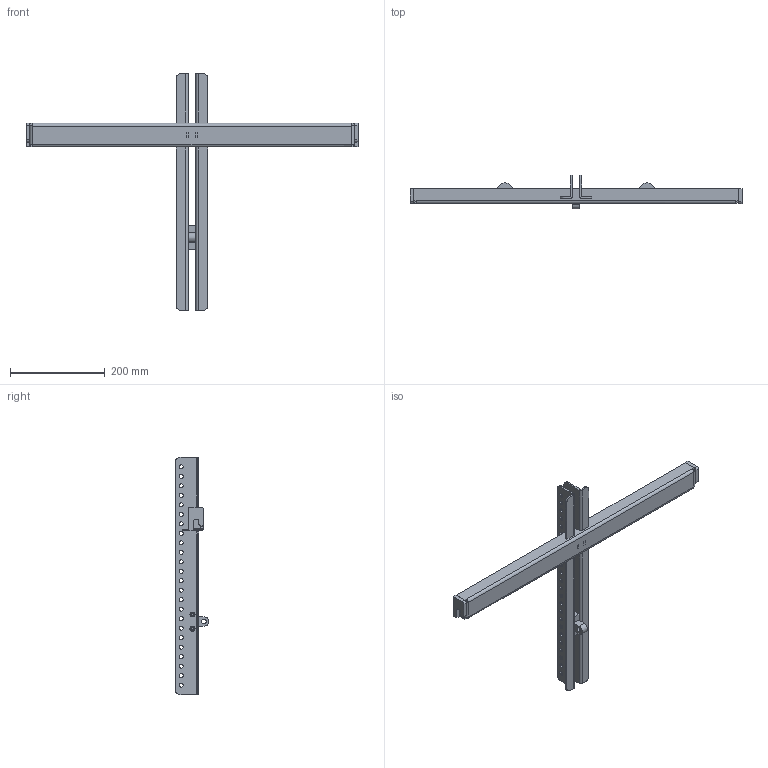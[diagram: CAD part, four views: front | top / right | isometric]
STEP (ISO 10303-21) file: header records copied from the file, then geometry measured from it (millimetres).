
FILE_DESCRIPTION (( 'STEP AP203' ), '1' );
FILE_NAME ('C-Serie Cradle.STEP', '2024-09-18T11:03:27', ( '' ), ( '' ), 'SwSTEP 2.0', 'SolidWorks 2009', '' );
FILE_SCHEMA (( 'CONFIG_CONTROL_DESIGN' ));
Length unit declared in the file: millimetre
Products named in the file (1): C-Serie Cradle
Bounding box: 700 x 70.76 x 500 mm (x, y, z)
Surface area: 306513.9 mm2 (no closed solid volume)
Topology: 0 solids, 13 shells, 288 faces, 904 edges, 618 vertices
Faces by surface type: cylinder 148, plane 114, cone 14, bspline 8, sphere 4
Entity records: 11101 total; most frequent: CARTESIAN_POINT 2689, DIRECTION 1763, ORIENTED_EDGE 1593, EDGE_CURVE 902, AXIS2_PLACEMENT_3D 620, VERTEX_POINT 618, LINE 523, VECTOR 523
